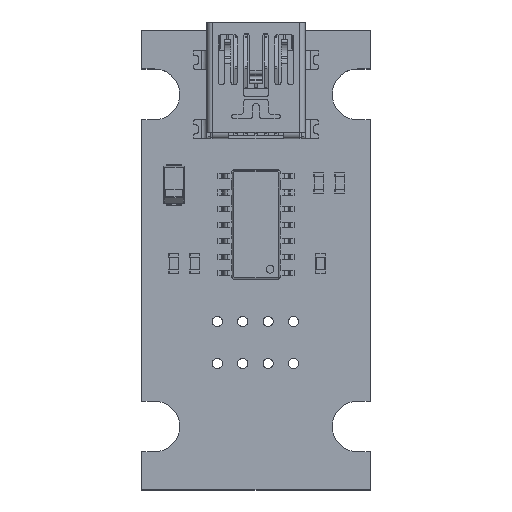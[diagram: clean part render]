
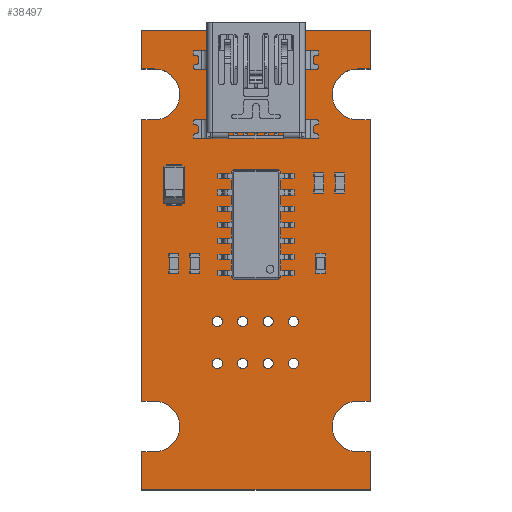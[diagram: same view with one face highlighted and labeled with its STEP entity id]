
A CAD part, top view. The second image highlights one B-rep face of the part: STEP entity #38497.
In plain terms, the highlighted planar face has unit normal (0, 0, 1).
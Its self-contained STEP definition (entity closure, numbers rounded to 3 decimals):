
#38142 = VERTEX_POINT('',#38143);
#38143 = CARTESIAN_POINT('',(18.,33.15,1.51));
#38149 = EDGE_CURVE('',#38142,#38150,#38152,.T.);
#38150 = VERTEX_POINT('',#38151);
#38151 = CARTESIAN_POINT('',(17.,33.15,1.51));
#38152 = LINE('',#38153,#38154);
#38153 = CARTESIAN_POINT('',(18.,33.15,1.51));
#38154 = VECTOR('',#38155,1.);
#38155 = DIRECTION('',(-1.,0.,0.));
#38182 = VERTEX_POINT('',#38183);
#38183 = CARTESIAN_POINT('',(18.,36.15,1.51));
#38189 = EDGE_CURVE('',#38182,#38142,#38190,.T.);
#38190 = LINE('',#38191,#38192);
#38191 = CARTESIAN_POINT('',(18.,36.15,1.51));
#38192 = VECTOR('',#38193,1.);
#38193 = DIRECTION('',(0.,-1.,0.));
#38211 = EDGE_CURVE('',#38150,#38212,#38214,.T.);
#38212 = VERTEX_POINT('',#38213);
#38213 = CARTESIAN_POINT('',(17.,29.15,1.51));
#38214 = CIRCLE('',#38215,2.);
#38215 = AXIS2_PLACEMENT_3D('',#38216,#38217,#38218);
#38216 = CARTESIAN_POINT('',(17.,31.15,1.51));
#38217 = DIRECTION('',(0.,0.,1.));
#38218 = DIRECTION('',(0.,1.,-0.));
#38497 = ADVANCED_FACE('',(#38498,#38640,#38651,#38662,#38673,#38684,
    #38695,#38706,#38717,#38728,#38739),#38750,.T.);
#38498 = FACE_BOUND('',#38499,.T.);
#38499 = EDGE_LOOP('',(#38500,#38501,#38502,#38510,#38518,#38526,#38535,
    #38543,#38551,#38559,#38568,#38576,#38584,#38592,#38600,#38608,
    #38617,#38625,#38633,#38639));
#38500 = ORIENTED_EDGE('',*,*,#38149,.F.);
#38501 = ORIENTED_EDGE('',*,*,#38189,.F.);
#38502 = ORIENTED_EDGE('',*,*,#38503,.F.);
#38503 = EDGE_CURVE('',#38504,#38182,#38506,.T.);
#38504 = VERTEX_POINT('',#38505);
#38505 = CARTESIAN_POINT('',(0.,36.15,1.51));
#38506 = LINE('',#38507,#38508);
#38507 = CARTESIAN_POINT('',(0.,36.15,1.51));
#38508 = VECTOR('',#38509,1.);
#38509 = DIRECTION('',(1.,0.,0.));
#38510 = ORIENTED_EDGE('',*,*,#38511,.F.);
#38511 = EDGE_CURVE('',#38512,#38504,#38514,.T.);
#38512 = VERTEX_POINT('',#38513);
#38513 = CARTESIAN_POINT('',(0.,33.15,1.51));
#38514 = LINE('',#38515,#38516);
#38515 = CARTESIAN_POINT('',(0.,33.15,1.51));
#38516 = VECTOR('',#38517,1.);
#38517 = DIRECTION('',(0.,1.,0.));
#38518 = ORIENTED_EDGE('',*,*,#38519,.F.);
#38519 = EDGE_CURVE('',#38520,#38512,#38522,.T.);
#38520 = VERTEX_POINT('',#38521);
#38521 = CARTESIAN_POINT('',(1.,33.15,1.51));
#38522 = LINE('',#38523,#38524);
#38523 = CARTESIAN_POINT('',(1.,33.15,1.51));
#38524 = VECTOR('',#38525,1.);
#38525 = DIRECTION('',(-1.,0.,0.));
#38526 = ORIENTED_EDGE('',*,*,#38527,.F.);
#38527 = EDGE_CURVE('',#38528,#38520,#38530,.T.);
#38528 = VERTEX_POINT('',#38529);
#38529 = CARTESIAN_POINT('',(1.,29.15,1.51));
#38530 = CIRCLE('',#38531,2.);
#38531 = AXIS2_PLACEMENT_3D('',#38532,#38533,#38534);
#38532 = CARTESIAN_POINT('',(1.,31.15,1.51));
#38533 = DIRECTION('',(0.,0.,1.));
#38534 = DIRECTION('',(-0.,-1.,0.));
#38535 = ORIENTED_EDGE('',*,*,#38536,.F.);
#38536 = EDGE_CURVE('',#38537,#38528,#38539,.T.);
#38537 = VERTEX_POINT('',#38538);
#38538 = CARTESIAN_POINT('',(0.,29.15,1.51));
#38539 = LINE('',#38540,#38541);
#38540 = CARTESIAN_POINT('',(0.,29.15,1.51));
#38541 = VECTOR('',#38542,1.);
#38542 = DIRECTION('',(1.,0.,0.));
#38543 = ORIENTED_EDGE('',*,*,#38544,.F.);
#38544 = EDGE_CURVE('',#38545,#38537,#38547,.T.);
#38545 = VERTEX_POINT('',#38546);
#38546 = CARTESIAN_POINT('',(0.,7.,1.51));
#38547 = LINE('',#38548,#38549);
#38548 = CARTESIAN_POINT('',(0.,7.,1.51));
#38549 = VECTOR('',#38550,1.);
#38550 = DIRECTION('',(0.,1.,0.));
#38551 = ORIENTED_EDGE('',*,*,#38552,.F.);
#38552 = EDGE_CURVE('',#38553,#38545,#38555,.T.);
#38553 = VERTEX_POINT('',#38554);
#38554 = CARTESIAN_POINT('',(1.,7.,1.51));
#38555 = LINE('',#38556,#38557);
#38556 = CARTESIAN_POINT('',(1.,7.,1.51));
#38557 = VECTOR('',#38558,1.);
#38558 = DIRECTION('',(-1.,0.,0.));
#38559 = ORIENTED_EDGE('',*,*,#38560,.F.);
#38560 = EDGE_CURVE('',#38561,#38553,#38563,.T.);
#38561 = VERTEX_POINT('',#38562);
#38562 = CARTESIAN_POINT('',(1.,3.,1.51));
#38563 = CIRCLE('',#38564,2.);
#38564 = AXIS2_PLACEMENT_3D('',#38565,#38566,#38567);
#38565 = CARTESIAN_POINT('',(1.,5.,1.51));
#38566 = DIRECTION('',(0.,0.,1.));
#38567 = DIRECTION('',(-0.,-1.,0.));
#38568 = ORIENTED_EDGE('',*,*,#38569,.F.);
#38569 = EDGE_CURVE('',#38570,#38561,#38572,.T.);
#38570 = VERTEX_POINT('',#38571);
#38571 = CARTESIAN_POINT('',(0.,3.,1.51));
#38572 = LINE('',#38573,#38574);
#38573 = CARTESIAN_POINT('',(0.,3.,1.51));
#38574 = VECTOR('',#38575,1.);
#38575 = DIRECTION('',(1.,0.,0.));
#38576 = ORIENTED_EDGE('',*,*,#38577,.F.);
#38577 = EDGE_CURVE('',#38578,#38570,#38580,.T.);
#38578 = VERTEX_POINT('',#38579);
#38579 = CARTESIAN_POINT('',(0.,0.,1.51));
#38580 = LINE('',#38581,#38582);
#38581 = CARTESIAN_POINT('',(0.,0.,1.51));
#38582 = VECTOR('',#38583,1.);
#38583 = DIRECTION('',(0.,1.,0.));
#38584 = ORIENTED_EDGE('',*,*,#38585,.F.);
#38585 = EDGE_CURVE('',#38586,#38578,#38588,.T.);
#38586 = VERTEX_POINT('',#38587);
#38587 = CARTESIAN_POINT('',(18.,0.,1.51));
#38588 = LINE('',#38589,#38590);
#38589 = CARTESIAN_POINT('',(18.,0.,1.51));
#38590 = VECTOR('',#38591,1.);
#38591 = DIRECTION('',(-1.,0.,0.));
#38592 = ORIENTED_EDGE('',*,*,#38593,.F.);
#38593 = EDGE_CURVE('',#38594,#38586,#38596,.T.);
#38594 = VERTEX_POINT('',#38595);
#38595 = CARTESIAN_POINT('',(18.,3.,1.51));
#38596 = LINE('',#38597,#38598);
#38597 = CARTESIAN_POINT('',(18.,3.,1.51));
#38598 = VECTOR('',#38599,1.);
#38599 = DIRECTION('',(0.,-1.,0.));
#38600 = ORIENTED_EDGE('',*,*,#38601,.F.);
#38601 = EDGE_CURVE('',#38602,#38594,#38604,.T.);
#38602 = VERTEX_POINT('',#38603);
#38603 = CARTESIAN_POINT('',(17.,3.,1.51));
#38604 = LINE('',#38605,#38606);
#38605 = CARTESIAN_POINT('',(17.,3.,1.51));
#38606 = VECTOR('',#38607,1.);
#38607 = DIRECTION('',(1.,0.,0.));
#38608 = ORIENTED_EDGE('',*,*,#38609,.F.);
#38609 = EDGE_CURVE('',#38610,#38602,#38612,.T.);
#38610 = VERTEX_POINT('',#38611);
#38611 = CARTESIAN_POINT('',(17.,7.,1.51));
#38612 = CIRCLE('',#38613,2.);
#38613 = AXIS2_PLACEMENT_3D('',#38614,#38615,#38616);
#38614 = CARTESIAN_POINT('',(17.,5.,1.51));
#38615 = DIRECTION('',(0.,0.,1.));
#38616 = DIRECTION('',(0.,1.,-0.));
#38617 = ORIENTED_EDGE('',*,*,#38618,.F.);
#38618 = EDGE_CURVE('',#38619,#38610,#38621,.T.);
#38619 = VERTEX_POINT('',#38620);
#38620 = CARTESIAN_POINT('',(18.,7.,1.51));
#38621 = LINE('',#38622,#38623);
#38622 = CARTESIAN_POINT('',(18.,7.,1.51));
#38623 = VECTOR('',#38624,1.);
#38624 = DIRECTION('',(-1.,0.,0.));
#38625 = ORIENTED_EDGE('',*,*,#38626,.F.);
#38626 = EDGE_CURVE('',#38627,#38619,#38629,.T.);
#38627 = VERTEX_POINT('',#38628);
#38628 = CARTESIAN_POINT('',(18.,29.15,1.51));
#38629 = LINE('',#38630,#38631);
#38630 = CARTESIAN_POINT('',(18.,29.15,1.51));
#38631 = VECTOR('',#38632,1.);
#38632 = DIRECTION('',(0.,-1.,0.));
#38633 = ORIENTED_EDGE('',*,*,#38634,.F.);
#38634 = EDGE_CURVE('',#38212,#38627,#38635,.T.);
#38635 = LINE('',#38636,#38637);
#38636 = CARTESIAN_POINT('',(17.,29.15,1.51));
#38637 = VECTOR('',#38638,1.);
#38638 = DIRECTION('',(1.,0.,0.));
#38639 = ORIENTED_EDGE('',*,*,#38211,.F.);
#38640 = FACE_BOUND('',#38641,.T.);
#38641 = EDGE_LOOP('',(#38642));
#38642 = ORIENTED_EDGE('',*,*,#38643,.T.);
#38643 = EDGE_CURVE('',#38644,#38644,#38646,.T.);
#38644 = VERTEX_POINT('',#38645);
#38645 = CARTESIAN_POINT('',(5.952,9.562,1.51));
#38646 = CIRCLE('',#38647,0.4);
#38647 = AXIS2_PLACEMENT_3D('',#38648,#38649,#38650);
#38648 = CARTESIAN_POINT('',(5.952,9.962,1.51));
#38649 = DIRECTION('',(-0.,0.,-1.));
#38650 = DIRECTION('',(-0.,-1.,0.));
#38651 = FACE_BOUND('',#38652,.T.);
#38652 = EDGE_LOOP('',(#38653));
#38653 = ORIENTED_EDGE('',*,*,#38654,.T.);
#38654 = EDGE_CURVE('',#38655,#38655,#38657,.T.);
#38655 = VERTEX_POINT('',#38656);
#38656 = CARTESIAN_POINT('',(5.952,12.864,1.51));
#38657 = CIRCLE('',#38658,0.4);
#38658 = AXIS2_PLACEMENT_3D('',#38659,#38660,#38661);
#38659 = CARTESIAN_POINT('',(5.952,13.264,1.51));
#38660 = DIRECTION('',(-0.,0.,-1.));
#38661 = DIRECTION('',(-0.,-1.,0.));
#38662 = FACE_BOUND('',#38663,.T.);
#38663 = EDGE_LOOP('',(#38664));
#38664 = ORIENTED_EDGE('',*,*,#38665,.T.);
#38665 = EDGE_CURVE('',#38666,#38666,#38668,.T.);
#38666 = VERTEX_POINT('',#38667);
#38667 = CARTESIAN_POINT('',(7.952,9.562,1.51));
#38668 = CIRCLE('',#38669,0.4);
#38669 = AXIS2_PLACEMENT_3D('',#38670,#38671,#38672);
#38670 = CARTESIAN_POINT('',(7.952,9.962,1.51));
#38671 = DIRECTION('',(-0.,0.,-1.));
#38672 = DIRECTION('',(-0.,-1.,0.));
#38673 = FACE_BOUND('',#38674,.T.);
#38674 = EDGE_LOOP('',(#38675));
#38675 = ORIENTED_EDGE('',*,*,#38676,.T.);
#38676 = EDGE_CURVE('',#38677,#38677,#38679,.T.);
#38677 = VERTEX_POINT('',#38678);
#38678 = CARTESIAN_POINT('',(7.952,12.864,1.51));
#38679 = CIRCLE('',#38680,0.4);
#38680 = AXIS2_PLACEMENT_3D('',#38681,#38682,#38683);
#38681 = CARTESIAN_POINT('',(7.952,13.264,1.51));
#38682 = DIRECTION('',(-0.,0.,-1.));
#38683 = DIRECTION('',(-0.,-1.,0.));
#38684 = FACE_BOUND('',#38685,.T.);
#38685 = EDGE_LOOP('',(#38686));
#38686 = ORIENTED_EDGE('',*,*,#38687,.T.);
#38687 = EDGE_CURVE('',#38688,#38688,#38690,.T.);
#38688 = VERTEX_POINT('',#38689);
#38689 = CARTESIAN_POINT('',(9.952,9.562,1.51));
#38690 = CIRCLE('',#38691,0.4);
#38691 = AXIS2_PLACEMENT_3D('',#38692,#38693,#38694);
#38692 = CARTESIAN_POINT('',(9.952,9.962,1.51));
#38693 = DIRECTION('',(-0.,0.,-1.));
#38694 = DIRECTION('',(-0.,-1.,0.));
#38695 = FACE_BOUND('',#38696,.T.);
#38696 = EDGE_LOOP('',(#38697));
#38697 = ORIENTED_EDGE('',*,*,#38698,.T.);
#38698 = EDGE_CURVE('',#38699,#38699,#38701,.T.);
#38699 = VERTEX_POINT('',#38700);
#38700 = CARTESIAN_POINT('',(9.952,12.864,1.51));
#38701 = CIRCLE('',#38702,0.4);
#38702 = AXIS2_PLACEMENT_3D('',#38703,#38704,#38705);
#38703 = CARTESIAN_POINT('',(9.952,13.264,1.51));
#38704 = DIRECTION('',(-0.,0.,-1.));
#38705 = DIRECTION('',(-0.,-1.,0.));
#38706 = FACE_BOUND('',#38707,.T.);
#38707 = EDGE_LOOP('',(#38708));
#38708 = ORIENTED_EDGE('',*,*,#38709,.T.);
#38709 = EDGE_CURVE('',#38710,#38710,#38712,.T.);
#38710 = VERTEX_POINT('',#38711);
#38711 = CARTESIAN_POINT('',(11.952,9.562,1.51));
#38712 = CIRCLE('',#38713,0.4);
#38713 = AXIS2_PLACEMENT_3D('',#38714,#38715,#38716);
#38714 = CARTESIAN_POINT('',(11.952,9.962,1.51));
#38715 = DIRECTION('',(-0.,0.,-1.));
#38716 = DIRECTION('',(-0.,-1.,0.));
#38717 = FACE_BOUND('',#38718,.T.);
#38718 = EDGE_LOOP('',(#38719));
#38719 = ORIENTED_EDGE('',*,*,#38720,.T.);
#38720 = EDGE_CURVE('',#38721,#38721,#38723,.T.);
#38721 = VERTEX_POINT('',#38722);
#38722 = CARTESIAN_POINT('',(11.952,12.864,1.51));
#38723 = CIRCLE('',#38724,0.4);
#38724 = AXIS2_PLACEMENT_3D('',#38725,#38726,#38727);
#38725 = CARTESIAN_POINT('',(11.952,13.264,1.51));
#38726 = DIRECTION('',(-0.,0.,-1.));
#38727 = DIRECTION('',(-0.,-1.,0.));
#38728 = FACE_BOUND('',#38729,.T.);
#38729 = EDGE_LOOP('',(#38730));
#38730 = ORIENTED_EDGE('',*,*,#38731,.T.);
#38731 = EDGE_CURVE('',#38732,#38732,#38734,.T.);
#38732 = VERTEX_POINT('',#38733);
#38733 = CARTESIAN_POINT('',(6.8,30.594,1.51));
#38734 = CIRCLE('',#38735,0.45);
#38735 = AXIS2_PLACEMENT_3D('',#38736,#38737,#38738);
#38736 = CARTESIAN_POINT('',(6.8,31.044,1.51));
#38737 = DIRECTION('',(-0.,0.,-1.));
#38738 = DIRECTION('',(-0.,-1.,0.));
#38739 = FACE_BOUND('',#38740,.T.);
#38740 = EDGE_LOOP('',(#38741));
#38741 = ORIENTED_EDGE('',*,*,#38742,.T.);
#38742 = EDGE_CURVE('',#38743,#38743,#38745,.T.);
#38743 = VERTEX_POINT('',#38744);
#38744 = CARTESIAN_POINT('',(11.2,30.594,1.51));
#38745 = CIRCLE('',#38746,0.45);
#38746 = AXIS2_PLACEMENT_3D('',#38747,#38748,#38749);
#38747 = CARTESIAN_POINT('',(11.2,31.044,1.51));
#38748 = DIRECTION('',(-0.,0.,-1.));
#38749 = DIRECTION('',(-0.,-1.,0.));
#38750 = PLANE('',#38751);
#38751 = AXIS2_PLACEMENT_3D('',#38752,#38753,#38754);
#38752 = CARTESIAN_POINT('',(0.,0.,1.51));
#38753 = DIRECTION('',(0.,0.,1.));
#38754 = DIRECTION('',(1.,0.,-0.));
